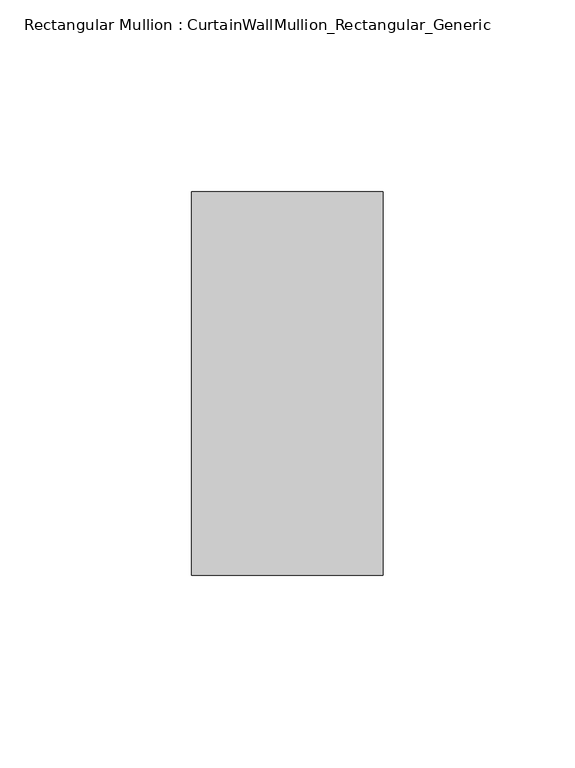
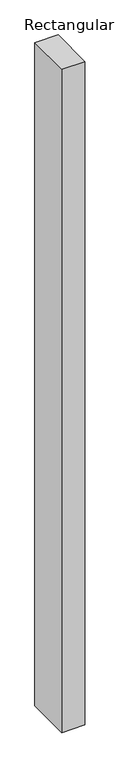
"""IFC4 building model written with IfcOpenShell, lengths in millimetres: member geometry, Rectangular Mullion : CurtainWallMullion_Rectangular_Generic."""

from ifc_helpers import new_model, si_unit, frame, origin, place, context, project, spatial, polyline, outline, extrude, source, transform, mapped, element, save


def rectangular_mullion_curtainwallmullion_rectangular_generic_19f2ec03(model_context):
    return source(origin(), model_context, "Body", "SweptSolid", [
        extrude(outline(polyline([(0.0, 50.0), (0.0, -50.0), (-50.0, -50.0), (-50.0, 50.0), (0.0, 50.0)])), frame((0.0, 0.0, -1510.0), z_axis=(0.0, 0.0, 1.0), x_axis=(1.0, 0.0, 0.0)), (0.0, 0.0, 1.0), 1510.0),
    ])


if __name__ == "__main__":
    model = new_model("IFC4")
    model_context = context("Model", 3, world=origin())
    ifc_project = project(units=[si_unit("LENGTHUNIT", "METRE", prefix="MILLI")], contexts=[model_context])
    site = spatial("IfcSite", under=ifc_project)
    building = spatial("IfcBuilding", under=site)
    placement = place(None, origin())
    rectangular_mullion_curtainwallmullion_rectangular_generic_shape = rectangular_mullion_curtainwallmullion_rectangular_generic_19f2ec03(model_context)
    element("IfcMember", 1, ObjectType="Rectangular Mullion : CurtainWallMullion_Rectangular_Generic", at=placement, inside=building, context=model_context, shape_type="MappedRepresentation", body=[
        mapped(rectangular_mullion_curtainwallmullion_rectangular_generic_shape, transform((0.0, 0.0, 0.0), x_axis=(1.0, 0.0, 0.0), y_axis=(0.0, 1.0, 0.0), z_axis=(0.0, 0.0, 1.0))),
    ])
    save(model, "model.ifc")
